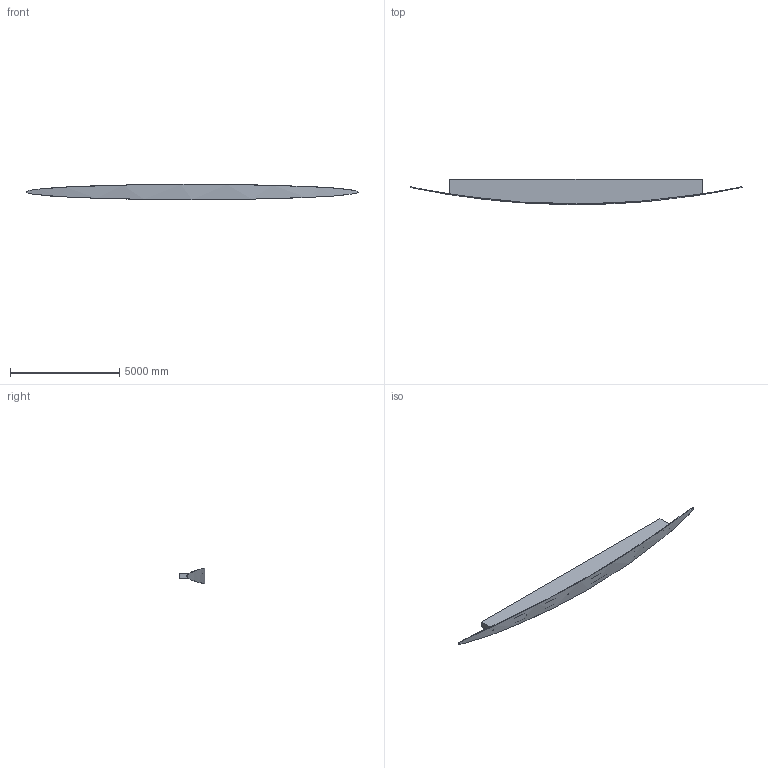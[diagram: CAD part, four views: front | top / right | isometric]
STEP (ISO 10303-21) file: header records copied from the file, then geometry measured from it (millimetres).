
FILE_DESCRIPTION(/* description */ (''),/* implementation_level */ '2;1');
FILE_NAME(/* name */ '4577',/* time_stamp */ '2022-02-01T16:32:21+01:00',/* author */ (''),/* organization */ (''),/* preprocessor_version */ 'ST-DEVELOPER v16.5',/* originating_system */ '',/* authorisation */ '');
FILE_SCHEMA (('CONFIG_CONTROL_DESIGN'));
Length unit declared in the file: centimetre
Products named in the file (1): Document
Bounding box: 15200 x 1159.93 x 700.2 mm (x, y, z)
Volume: 3296978486.3 mm3; surface area: 46974350 mm2
Topology: 7 solids, 7 shells, 42 faces, 75 edges, 47 vertices
Faces by surface type: plane 17, cylinder 13, bspline 12
Entity records: 1244 total; most frequent: CARTESIAN_POINT 613, ORIENTED_EDGE 150, EDGE_CURVE 75, VERTEX_POINT 47, ADVANCED_FACE 42, FACE_OUTER_BOUND 42, EDGE_LOOP 42, B_SPLINE_CURVE_WITH_KNOTS 39
